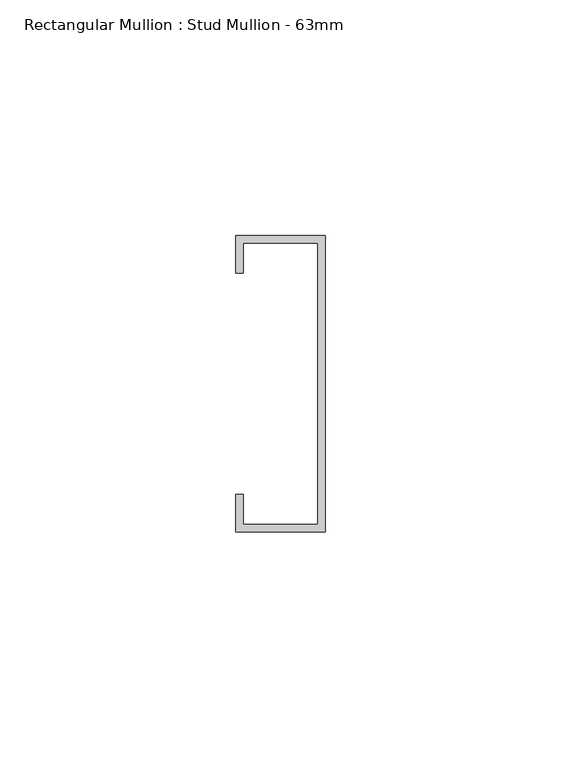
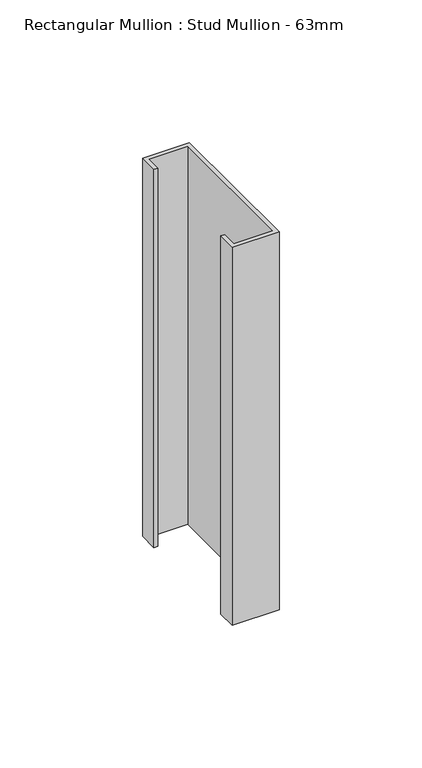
"""IFC4 building model written with IfcOpenShell, lengths in millimetres: member geometry, Rectangular Mullion : Stud Mullion - 63mm."""

from ifc_helpers import new_model, si_unit, frame, origin, place, context, project, spatial, polyline, outline, extrude, source, transform, mapped, element, save


def rectangular_mullion_stud_mullion_63mm_06861ceb(model_context):
    return source(origin(), model_context, "Body", "SweptSolid", [
        extrude(outline(polyline([(-19.0, 23.5), (-19.0, 31.5), (0.0, 31.5), (0.0, -31.5), (-19.0, -31.5), (-19.0, -23.5), (-17.4, -23.5), (-17.4, -29.9), (-1.6, -29.9), (-1.6, 29.9), (-17.4, 29.9), (-17.4, 23.5), (-19.0, 23.5)])), frame((0.0, 0.0, -161.9999997), z_axis=(0.0, 0.0, 1.0), x_axis=(1.0, 0.0, 0.0)), (0.0, 0.0, 1.0), 161.9999997),
    ])


if __name__ == "__main__":
    model = new_model("IFC4")
    model_context = context("Model", 3, world=origin())
    ifc_project = project(units=[si_unit("LENGTHUNIT", "METRE", prefix="MILLI")], contexts=[model_context])
    site = spatial("IfcSite", under=ifc_project)
    building = spatial("IfcBuilding", under=site)
    placement = place(None, origin())
    rectangular_mullion_stud_mullion_63mm_shape = rectangular_mullion_stud_mullion_63mm_06861ceb(model_context)
    element("IfcMember", 1, ObjectType="Rectangular Mullion : Stud Mullion - 63mm", at=placement, inside=building, context=model_context, shape_type="MappedRepresentation", body=[
        mapped(rectangular_mullion_stud_mullion_63mm_shape, transform((0.0, 0.0, 0.0), x_axis=(1.0, 0.0, 0.0), y_axis=(0.0, 1.0, 0.0), z_axis=(0.0, 0.0, 1.0))),
    ])
    save(model, "model.ifc")
